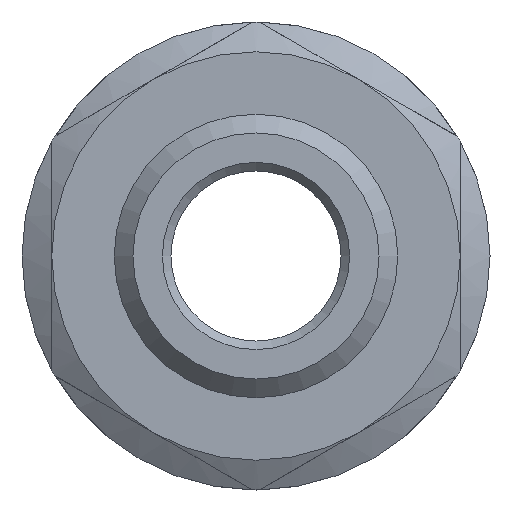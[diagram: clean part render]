
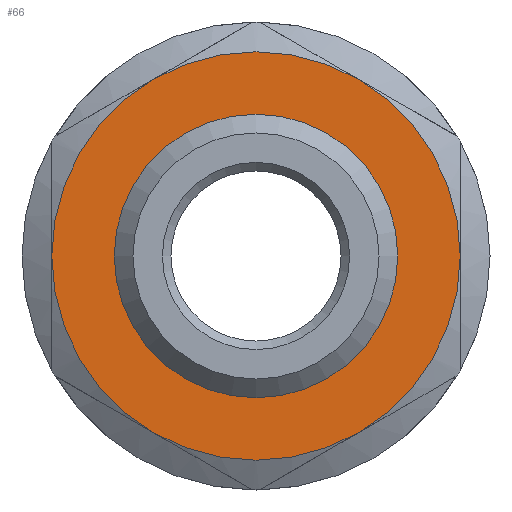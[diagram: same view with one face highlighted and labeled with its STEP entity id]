
A CAD part, front view. The second image highlights one B-rep face of the part: STEP entity #66.
In plain terms, the highlighted planar face has unit normal (0, -1, 0).
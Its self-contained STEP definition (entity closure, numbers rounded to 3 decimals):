
#66=ADVANCED_FACE('',(#240,#242),#244,.F.);
#240=FACE_BOUND('',#241,.T.);
#241=EDGE_LOOP('',(#390,#391,#392));
#242=FACE_BOUND('',#243,.T.);
#243=EDGE_LOOP('',(#393));
#244=PLANE('',#245);
#245=AXIS2_PLACEMENT_3D('',#246,#247,#248);
#246=CARTESIAN_POINT('',(0.,-10.,0.));
#247=DIRECTION('',(0.,1.,0.));
#248=DIRECTION('',(-1.,0.,0.));
#390=ORIENTED_EDGE('',*,*,#449,.T.);
#391=ORIENTED_EDGE('',*,*,#443,.T.);
#392=ORIENTED_EDGE('',*,*,#455,.T.);
#393=ORIENTED_EDGE('',*,*,#439,.F.);
#439=EDGE_CURVE('',#529,#529,#530,.T.);
#443=EDGE_CURVE('',#536,#534,#537,.F.);
#449=EDGE_CURVE('',#542,#536,#544,.F.);
#455=EDGE_CURVE('',#534,#542,#550,.F.);
#529=VERTEX_POINT('',#717);
#530=CIRCLE('',#718,8.331);
#534=VERTEX_POINT('',#766);
#536=VERTEX_POINT('',#797);
#537=CIRCLE('',#798,12.);
#542=VERTEX_POINT('',#946);
#544=CIRCLE('',#977,12.);
#550=CIRCLE('',#1183,12.);
#717=CARTESIAN_POINT('',(8.331,-10.,0.));
#718=AXIS2_PLACEMENT_3D('',#719,#720,#721);
#719=CARTESIAN_POINT('',(0.,-10.,0.));
#720=DIRECTION('',(0.,-1.,0.));
#721=DIRECTION('',(1.,0.,0.));
#766=CARTESIAN_POINT('',(-12.,-10.,0.));
#797=CARTESIAN_POINT('',(6.,-10.,10.392));
#798=AXIS2_PLACEMENT_3D('',#799,#800,#801);
#799=CARTESIAN_POINT('',(0.,-10.,0.));
#800=DIRECTION('',(0.,1.,0.));
#801=DIRECTION('',(-1.,0.,0.));
#946=CARTESIAN_POINT('',(12.,-10.,0.));
#977=AXIS2_PLACEMENT_3D('',#978,#979,#980);
#978=CARTESIAN_POINT('',(0.,-10.,0.));
#979=DIRECTION('',(0.,1.,0.));
#980=DIRECTION('',(0.5,0.,0.866));
#1183=AXIS2_PLACEMENT_3D('',#1184,#1185,#1186);
#1184=CARTESIAN_POINT('',(0.,-10.,0.));
#1185=DIRECTION('',(0.,1.,0.));
#1186=DIRECTION('',(1.,0.,0.));
